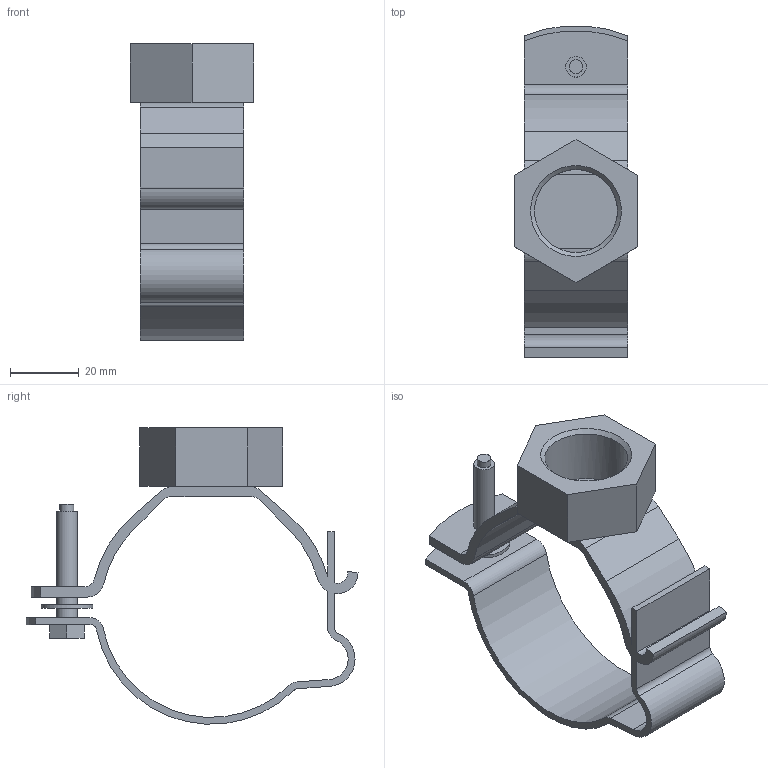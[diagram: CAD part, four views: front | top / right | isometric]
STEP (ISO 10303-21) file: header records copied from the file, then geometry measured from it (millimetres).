
FILE_DESCRIPTION( ( 'STEP AP214' ), '1' );
FILE_NAME( 'C:/Users/ilukic/Documents/ex/gebaudeentwasserung/pe/pipe bracket G3_4 adjustable/363842.stp', '2020-03-26T18:42:06', ( '' ), ( '' ), ' ', 'PARTsolutions', ' ' );
FILE_SCHEMA( ( 'AUTOMOTIVE_DESIGN { 1 0 10303 214 1 1 1 1 }' ) );
Length unit declared in the file: millimetre
Products named in the file (1): _363842
Bounding box: 36 x 96.54 x 86.16 mm (x, y, z)
Volume: 32541.2 mm3; surface area: 23210.2 mm2
Topology: 1 solids, 1 shells, 72 faces, 197 edges, 130 vertices
Faces by surface type: plane 39, cylinder 32, cone 1
Full cylindrical faces by diameter (mm): 4 x1, 6 x3, 15 x1, 24.117 x1
Entity records: 2848 total; most frequent: DIRECTION 402, CARTESIAN_POINT 389, ORIENTED_EDGE 376, EDGE_CURVE 188, AXIS2_PLACEMENT_3D 141, VERTEX_POINT 128, LINE 120, VECTOR 120
